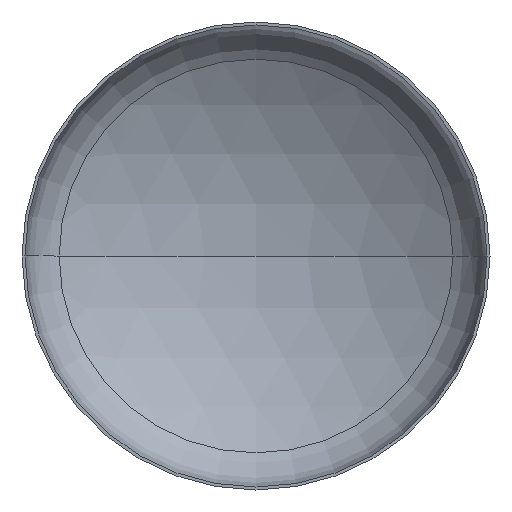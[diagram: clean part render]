
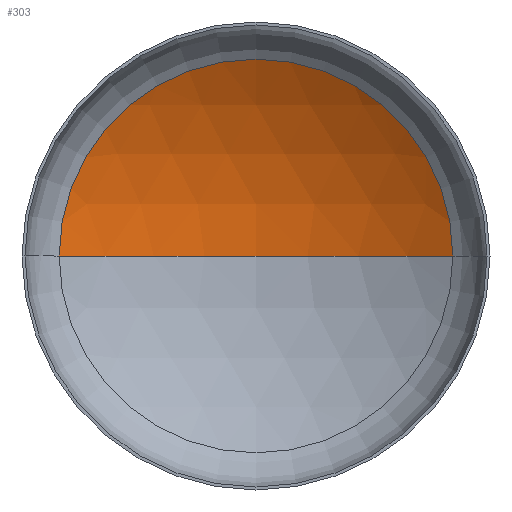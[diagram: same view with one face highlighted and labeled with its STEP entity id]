
A CAD part, front view. The second image highlights one B-rep face of the part: STEP entity #303.
In plain terms, the highlighted spherical face has radius 6000 mm.
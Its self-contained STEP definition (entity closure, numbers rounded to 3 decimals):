
#4 = ORIENTED_EDGE ( 'NONE', *, *, #93, .T. ) ;
#8 = CARTESIAN_POINT ( 'NONE',  ( 0., -3971.507, 0. ) ) ;
#14 = ORIENTED_EDGE ( 'NONE', *, *, #97, .T. ) ;
#27 = VERTEX_POINT ( 'NONE', #280 ) ;
#48 = VERTEX_POINT ( 'NONE', #223 ) ;
#65 = ORIENTED_EDGE ( 'NONE', *, *, #101, .F. ) ;
#85 = VERTEX_POINT ( 'NONE', #358 ) ;
#93 = EDGE_CURVE ( 'NONE', #48, #27, #333, .T. ) ;
#97 = EDGE_CURVE ( 'NONE', #85, #48, #283, .T. ) ;
#101 = EDGE_CURVE ( 'NONE', #85, #27, #207, .T. ) ;
#107 = EDGE_LOOP ( 'NONE', ( #65, #14, #4 ) ) ;
#136 = DIRECTION ( 'NONE',  ( 0., 0., -1. ) ) ;
#139 = DIRECTION ( 'NONE',  ( -1., 0., 0. ) ) ;
#157 = CARTESIAN_POINT ( 'NONE',  ( 0., -3971.507, 0. ) ) ;
#159 = DIRECTION ( 'NONE',  ( -1., 0., 0. ) ) ;
#170 = AXIS2_PLACEMENT_3D ( 'NONE', #217, #218, #210 ) ;
#178 = DIRECTION ( 'NONE',  ( 1., 0., 0. ) ) ;
#188 = AXIS2_PLACEMENT_3D ( 'NONE', #190, #192, #139 ) ;
#190 = CARTESIAN_POINT ( 'NONE',  ( 0., -3971.507, 0. ) ) ;
#192 = DIRECTION ( 'NONE',  ( 0., 0., -1. ) ) ;
#206 = AXIS2_PLACEMENT_3D ( 'NONE', #8, #299, #178 ) ;
#207 = CIRCLE ( 'NONE', #206, 6000. ) ;
#210 = DIRECTION ( 'NONE',  ( 1., 0., 0. ) ) ;
#217 = CARTESIAN_POINT ( 'NONE',  ( 0., 1132.526, 0. ) ) ;
#218 = DIRECTION ( 'NONE',  ( 0., -1., 0. ) ) ;
#223 = CARTESIAN_POINT ( 'NONE',  ( 3154.18, 1132.526, 0. ) ) ;
#280 = CARTESIAN_POINT ( 'NONE',  ( -3154.18, 1132.526, 0. ) ) ;
#283 = CIRCLE ( 'NONE', #188, 6000. ) ;
#299 = DIRECTION ( 'NONE',  ( 0., 0., 1. ) ) ;
#303 = ADVANCED_FACE ( 'NONE', ( #364 ), #410, .F. ) ;
#333 = CIRCLE ( 'NONE', #170, 3154.18 ) ;
#358 = CARTESIAN_POINT ( 'NONE',  ( 0., 2028.493, 0. ) ) ;
#364 = FACE_OUTER_BOUND ( 'NONE', #107, .T. ) ;
#390 = AXIS2_PLACEMENT_3D ( 'NONE', #157, #136, #159 ) ;
#410 = SPHERICAL_SURFACE ( 'NONE', #390, 6000. ) ;
